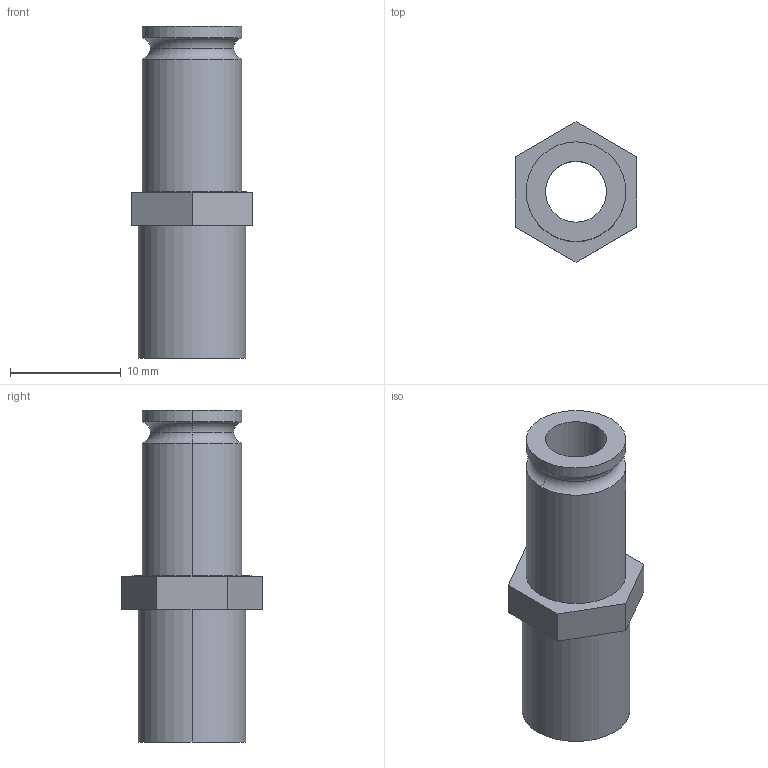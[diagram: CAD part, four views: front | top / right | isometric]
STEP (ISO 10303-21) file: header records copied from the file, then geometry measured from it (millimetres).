
FILE_DESCRIPTION (( 'STEP AP214' ), '1' );
FILE_NAME ('BR811-09- R1-4.STEP', '2020-06-23T08:10:38', ( '' ), ( '' ), 'SwSTEP 2.0', 'SolidWorks 2018', '' );
FILE_SCHEMA (( 'AUTOMOTIVE_DESIGN' ));
Length unit declared in the file: millimetre
Products named in the file (1): BR811-09- R1-4
Bounding box: 11 x 12.7 x 30 mm (x, y, z)
Volume: 1199.5 mm3; surface area: 1666.9 mm2
Topology: 1 solids, 1 shells, 25 faces, 54 edges, 34 vertices
Faces by surface type: plane 11, cylinder 10, torus 4
Entity records: 724 total; most frequent: DIRECTION 132, CARTESIAN_POINT 114, ORIENTED_EDGE 108, EDGE_CURVE 54, AXIS2_PLACEMENT_3D 52, VERTEX_POINT 34, EDGE_LOOP 30, LINE 28
